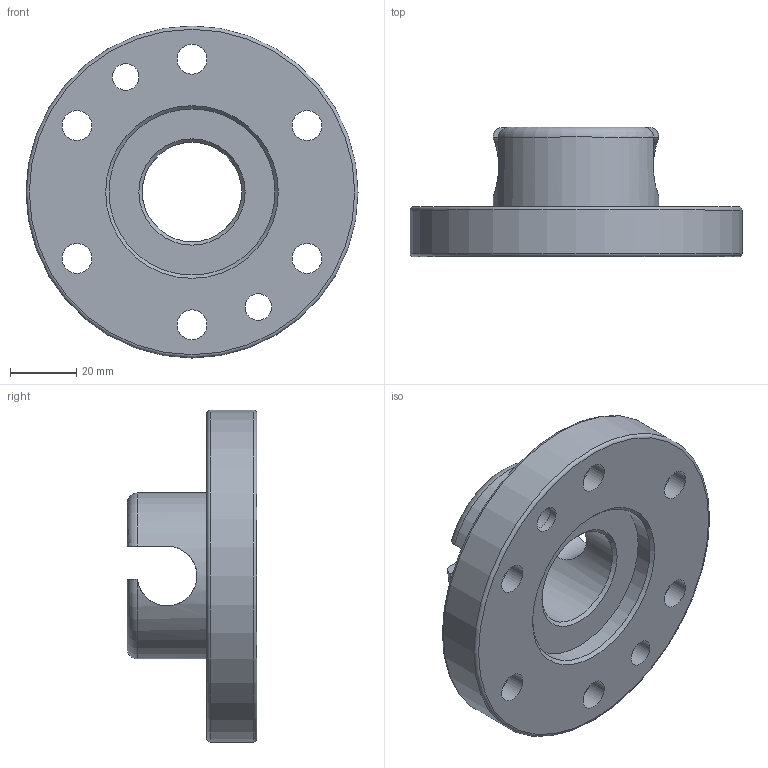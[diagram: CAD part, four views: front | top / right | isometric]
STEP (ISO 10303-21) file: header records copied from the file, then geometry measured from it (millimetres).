
FILE_DESCRIPTION(/* description */ (''),/* implementation_level */ '2;1');
FILE_NAME(/* name */ 'G-MGW100-2U-N.stp',/* time_stamp */ '2024-01-10T08:29:20+01:00',/* author */ ('ysplieth'),/* organization */ (''),/* preprocessor_version */ 'ST-DEVELOPER v20',/* originating_system */ 'Autodesk Inventor 2024',/* authorisation */ '');
FILE_SCHEMA (('AUTOMOTIVE_DESIGN { 1 0 10303 214 3 1 1 }'));
Length unit declared in the file: millimetre
Products named in the file (1): Bauteil4
Bounding box: 100 x 39 x 100 mm (x, y, z)
Volume: 109308.2 mm3; surface area: 29338.1 mm2
Topology: 1 solids, 1 shells, 46 faces, 109 edges, 72 vertices
Faces by surface type: cylinder 21, plane 15, cone 6, torus 4
Full cylindrical faces by diameter (mm): 8 x2, 9 x6, 10.1 x1, 15 x6, 30 x1, 50 x2, 100 x1
Entity records: 1605 total; most frequent: CARTESIAN_POINT 378, DIRECTION 245, ORIENTED_EDGE 218, EDGE_CURVE 109, AXIS2_PLACEMENT_3D 103, VERTEX_POINT 72, EDGE_LOOP 71, CIRCLE 56
